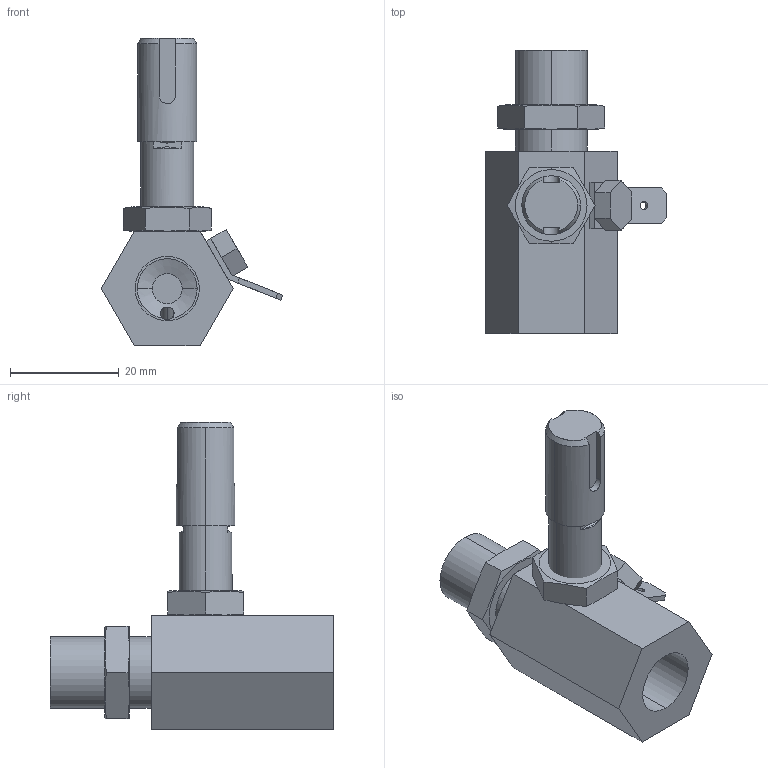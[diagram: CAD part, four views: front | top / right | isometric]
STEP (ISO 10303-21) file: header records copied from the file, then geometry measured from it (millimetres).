
FILE_DESCRIPTION (( 'STEP AP203' ), '1' );
FILE_NAME ('2EJR21L1416000A.STEP', '2017-04-20T10:27:25', ( 'FMI' ), ( 'Hewlett-Packard Company' ), 'SwSTEP 2.0', 'SolidWorks 2010', '' );
FILE_SCHEMA (( 'CONFIG_CONTROL_DESIGN' ));
Length unit declared in the file: millimetre
Products named in the file (7): 2EJR21L1416000A; Corps 2EJR21_...Avec prise vacuostatique; F64.D250.14; F64.D250.18; Mélangeur 1.6_2EJR21_Version light; F82.534929; C29_Vis H acier ZB CL8.8_vis H M 5x  8 
Assembly tree (6 placements, depth 2):
  2EJR21L1416000A
    F64.D250.18
    F64.D250.14
    Corps 2EJR21_...Avec prise vacuostatique
    F82.534929
    Mélangeur 1.6_2EJR21_Version light
    C29_Vis H acier ZB CL8.8_vis H M 5x  8 
Bounding box: 33.35 x 52 x 56.5 mm (x, y, z)
Volume: 16615.3 mm3; surface area: 9078.6 mm2
Topology: 6 solids, 6 shells, 148 faces, 366 edges, 237 vertices
Faces by surface type: plane 74, cylinder 43, cone 25, torus 6
Entity records: 5445 total; most frequent: CARTESIAN_POINT 1176, DIRECTION 742, ORIENTED_EDGE 728, EDGE_CURVE 364, AXIS2_PLACEMENT_3D 277, VERTEX_POINT 237, LINE 188, VECTOR 188
